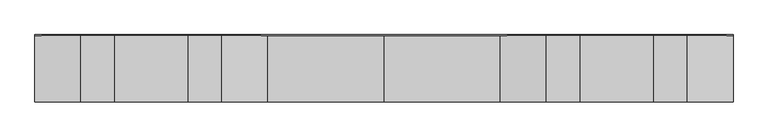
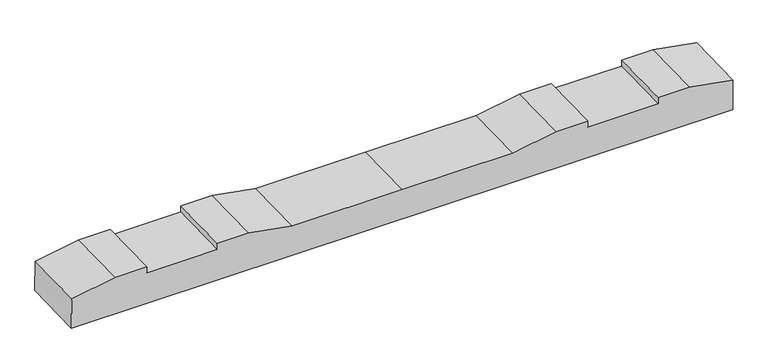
"""IFC4 building model written with IfcOpenShell, lengths in millimetres: proxy geometry, 轨枕-立面角度 : 轨枕-立面角度."""

from ifc_helpers import new_model, si_unit, frame, origin, place, context, project, spatial, polyline, outline, extrude, source, transform, mapped, element, save


def generic_models_c732b215(model_context):
    return source(origin(), model_context, "Body", "SweptSolid", [
        extrude(outline(polyline([(0.0, 0.0), (2099.7669328, 0.0), (2099.7669328, -100.0206889), (1961.8834664, -124.5), (1861.8834664, -124.5), (1861.8834664, -104.5), (1637.8834664, -104.5), (1637.8834664, -124.5), (1537.8834664, -124.5), (1399.8834664, -100.0), (1049.8834664, -100.0), (699.8834664, -100.0), (561.8834664, -124.5), (461.8834664, -124.5), (461.8834664, -104.5), (237.8834664, -104.5), (237.8834664, -124.5), (137.8834664, -124.5), (0.0, -100.0206889), (0.0, 0.0)])), frame((-1049.8834664, -97.4107279, -106.9177258), z_axis=(0.0, 0.9997000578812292, 0.024490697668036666), x_axis=(1.0, 0.0, 0.0)), (0.0, 0.0, 1.0), 200.0),
    ])


if __name__ == "__main__":
    model = new_model("IFC4")
    model_context = context("Model", 3, world=origin())
    ifc_project = project(units=[si_unit("LENGTHUNIT", "METRE", prefix="MILLI")], contexts=[model_context])
    site = spatial("IfcSite", under=ifc_project)
    building = spatial("IfcBuilding", under=site)
    placement = place(None, origin())
    generic_models_shape = generic_models_c732b215(model_context)
    element("IfcBuildingElementProxy", 1, Name="轨枕-立面角度 : 轨枕-立面角度", ObjectType="轨枕-立面角度 : 轨枕-立面角度", at=placement, inside=building, context=model_context, shape_type="MappedRepresentation", body=[
        mapped(generic_models_shape, transform((0.0, 0.0, 0.0), x_axis=(1.0, 0.0, 0.0), y_axis=(0.0, 1.0, 0.0), z_axis=(0.0, 0.0, 1.0))),
    ])
    save(model, "model.ifc")
